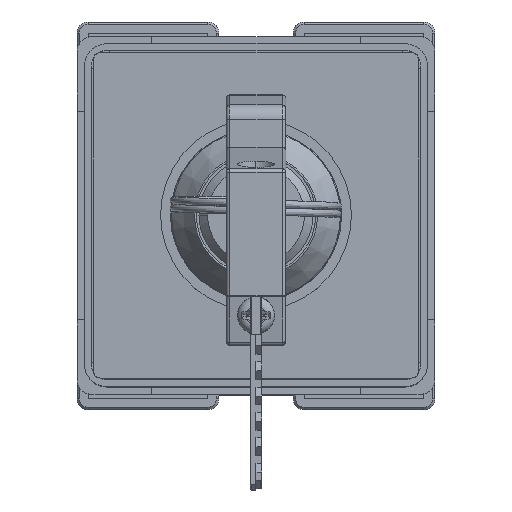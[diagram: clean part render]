
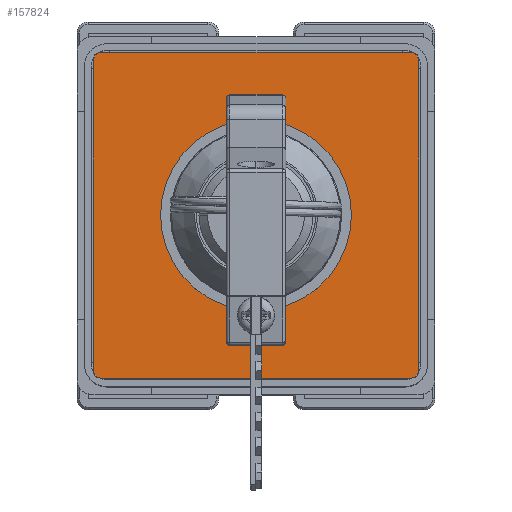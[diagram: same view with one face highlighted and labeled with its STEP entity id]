
A CAD part, top view. The second image highlights one B-rep face of the part: STEP entity #157824.
In plain terms, the highlighted planar face has unit normal (0, 0, 1).
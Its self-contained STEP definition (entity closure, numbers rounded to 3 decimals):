
#5322 = EDGE_CURVE ( 'NONE', #26547, #93287, #170419, .T. ) ;
#5338 = VERTEX_POINT ( 'NONE', #103425 ) ;
#9929 = VERTEX_POINT ( 'NONE', #108780 ) ;
#21337 = VECTOR ( 'NONE', #125665, 1000. ) ;
#21419 = ORIENTED_EDGE ( 'NONE', *, *, #207023, .F. ) ;
#22266 = DIRECTION ( 'NONE',  ( 1., 0., 0. ) ) ;
#26547 = VERTEX_POINT ( 'NONE', #61693 ) ;
#26759 = DIRECTION ( 'NONE',  ( 0., 0., -1. ) ) ;
#27378 = VERTEX_POINT ( 'NONE', #33378 ) ;
#33378 = CARTESIAN_POINT ( 'NONE',  ( 27.211, -26.961, -84.982 ) ) ;
#33521 = CARTESIAN_POINT ( 'NONE',  ( 27.211, 15.739, -84.982 ) ) ;
#34198 = CARTESIAN_POINT ( 'NONE',  ( -15.489, -25.961, -84.982 ) ) ;
#36967 = AXIS2_PLACEMENT_3D ( 'NONE', #123761, #172700, #125915 ) ;
#41573 = CARTESIAN_POINT ( 'NONE',  ( 6.361, -5.111, -84.982 ) ) ;
#41678 = CARTESIAN_POINT ( 'NONE',  ( 28.211, -25.961, -84.982 ) ) ;
#41914 = CARTESIAN_POINT ( 'NONE',  ( -14.489, 16.739, -84.982 ) ) ;
#44014 = DIRECTION ( 'NONE',  ( 1., 0., 0. ) ) ;
#44840 = CIRCLE ( 'NONE', #36967, 1. ) ;
#47771 = VERTEX_POINT ( 'NONE', #34198 ) ;
#49643 = LINE ( 'NONE', #206158, #21337 ) ;
#53506 = AXIS2_PLACEMENT_3D ( 'NONE', #105088, #121611, #74213 ) ;
#54833 = CARTESIAN_POINT ( 'NONE',  ( 27.211, -25.961, -84.982 ) ) ;
#55090 = CARTESIAN_POINT ( 'NONE',  ( -14.489, 16.739, -84.982 ) ) ;
#59029 = CIRCLE ( 'NONE', #182462, 12.8 ) ;
#59509 = DIRECTION ( 'NONE',  ( 1., 0., 0. ) ) ;
#60286 = DIRECTION ( 'NONE',  ( 1., 0., 0. ) ) ;
#61693 = CARTESIAN_POINT ( 'NONE',  ( -15.489, 15.739, -84.982 ) ) ;
#63715 = ORIENTED_EDGE ( 'NONE', *, *, #117564, .F. ) ;
#66414 = FACE_OUTER_BOUND ( 'NONE', #134400, .T. ) ;
#69157 = LINE ( 'NONE', #72259, #92217 ) ;
#70034 = VERTEX_POINT ( 'NONE', #41678 ) ;
#72259 = CARTESIAN_POINT ( 'NONE',  ( -14.489, -26.961, -84.982 ) ) ;
#72670 = EDGE_CURVE ( 'NONE', #5338, #129790, #163284, .T. ) ;
#74213 = DIRECTION ( 'NONE',  ( 1., 0., 0. ) ) ;
#78166 = VERTEX_POINT ( 'NONE', #148643 ) ;
#83851 = ORIENTED_EDGE ( 'NONE', *, *, #72670, .T. ) ;
#89004 = DIRECTION ( 'NONE',  ( 0., 0., -1. ) ) ;
#89395 = ORIENTED_EDGE ( 'NONE', *, *, #5322, .F. ) ;
#89920 = DIRECTION ( 'NONE',  ( 1., 0., 0. ) ) ;
#90440 = CARTESIAN_POINT ( 'NONE',  ( 6.361, -5.111, -84.982 ) ) ;
#92217 = VECTOR ( 'NONE', #202948, 1000. ) ;
#93155 = CIRCLE ( 'NONE', #117510, 1. ) ;
#93287 = VERTEX_POINT ( 'NONE', #55090 ) ;
#97269 = CARTESIAN_POINT ( 'NONE',  ( 19.161, -5.111, -84.982 ) ) ;
#103425 = CARTESIAN_POINT ( 'NONE',  ( -6.439, -5.111, -84.982 ) ) ;
#105088 = CARTESIAN_POINT ( 'NONE',  ( -14.489, -25.961, -84.982 ) ) ;
#106606 = VERTEX_POINT ( 'NONE', #112972 ) ;
#108780 = CARTESIAN_POINT ( 'NONE',  ( -14.489, -26.961, -84.982 ) ) ;
#111220 = AXIS2_PLACEMENT_3D ( 'NONE', #90440, #173101, #60286 ) ;
#112972 = CARTESIAN_POINT ( 'NONE',  ( 28.211, 15.739, -84.982 ) ) ;
#117510 = AXIS2_PLACEMENT_3D ( 'NONE', #33521, #182171, #182885 ) ;
#117564 = EDGE_CURVE ( 'NONE', #27378, #9929, #69157, .T. ) ;
#121611 = DIRECTION ( 'NONE',  ( 0., 0., -1. ) ) ;
#122650 = AXIS2_PLACEMENT_3D ( 'NONE', #169554, #89004, #22266 ) ;
#123761 = CARTESIAN_POINT ( 'NONE',  ( -14.489, -25.961, -84.982 ) ) ;
#125665 = DIRECTION ( 'NONE',  ( 0., -1., 0. ) ) ;
#125915 = DIRECTION ( 'NONE',  ( 1., 0., 0. ) ) ;
#127100 = LINE ( 'NONE', #197658, #155340 ) ;
#129790 = VERTEX_POINT ( 'NONE', #97269 ) ;
#134400 = EDGE_LOOP ( 'NONE', ( #21419, #63715, #146993, #181481, #209092, #166407, #89395, #191415 ) ) ;
#142778 = DIRECTION ( 'NONE',  ( 0., 0., -1. ) ) ;
#145685 = LINE ( 'NONE', #41914, #184281 ) ;
#146519 = EDGE_CURVE ( 'NONE', #47771, #26547, #127100, .T. ) ;
#146993 = ORIENTED_EDGE ( 'NONE', *, *, #165533, .F. ) ;
#148643 = CARTESIAN_POINT ( 'NONE',  ( 27.211, 16.739, -84.982 ) ) ;
#151394 = EDGE_CURVE ( 'NONE', #129790, #5338, #59029, .T. ) ;
#153813 = EDGE_CURVE ( 'NONE', #106606, #70034, #49643, .T. ) ;
#155340 = VECTOR ( 'NONE', #196963, 1000. ) ;
#156364 = EDGE_CURVE ( 'NONE', #78166, #106606, #93155, .T. ) ;
#156808 = PLANE ( 'NONE',  #53506 ) ;
#157824 = ADVANCED_FACE ( 'NONE', ( #205067, #66414 ), #156808, .F. ) ;
#163284 = CIRCLE ( 'NONE', #111220, 12.8 ) ;
#165533 = EDGE_CURVE ( 'NONE', #70034, #27378, #202751, .T. ) ;
#166407 = ORIENTED_EDGE ( 'NONE', *, *, #175606, .F. ) ;
#169554 = CARTESIAN_POINT ( 'NONE',  ( -14.489, 15.739, -84.982 ) ) ;
#170419 = CIRCLE ( 'NONE', #122650, 1. ) ;
#172700 = DIRECTION ( 'NONE',  ( 0., 0., -1. ) ) ;
#173101 = DIRECTION ( 'NONE',  ( 0., 0., -1. ) ) ;
#175606 = EDGE_CURVE ( 'NONE', #93287, #78166, #145685, .T. ) ;
#181481 = ORIENTED_EDGE ( 'NONE', *, *, #153813, .F. ) ;
#182171 = DIRECTION ( 'NONE',  ( 0., 0., -1. ) ) ;
#182462 = AXIS2_PLACEMENT_3D ( 'NONE', #41573, #142778, #59509 ) ;
#182885 = DIRECTION ( 'NONE',  ( 1., 0., 0. ) ) ;
#184281 = VECTOR ( 'NONE', #44014, 1000. ) ;
#186770 = EDGE_LOOP ( 'NONE', ( #192126, #83851 ) ) ;
#188966 = AXIS2_PLACEMENT_3D ( 'NONE', #54833, #26759, #89920 ) ;
#191415 = ORIENTED_EDGE ( 'NONE', *, *, #146519, .F. ) ;
#192126 = ORIENTED_EDGE ( 'NONE', *, *, #151394, .T. ) ;
#196963 = DIRECTION ( 'NONE',  ( 0., 1., 0. ) ) ;
#197658 = CARTESIAN_POINT ( 'NONE',  ( -15.489, -25.961, -84.982 ) ) ;
#202751 = CIRCLE ( 'NONE', #188966, 1. ) ;
#202948 = DIRECTION ( 'NONE',  ( -1., 0., 0. ) ) ;
#205067 = FACE_BOUND ( 'NONE', #186770, .T. ) ;
#206158 = CARTESIAN_POINT ( 'NONE',  ( 28.211, -25.961, -84.982 ) ) ;
#207023 = EDGE_CURVE ( 'NONE', #9929, #47771, #44840, .T. ) ;
#209092 = ORIENTED_EDGE ( 'NONE', *, *, #156364, .F. ) ;
